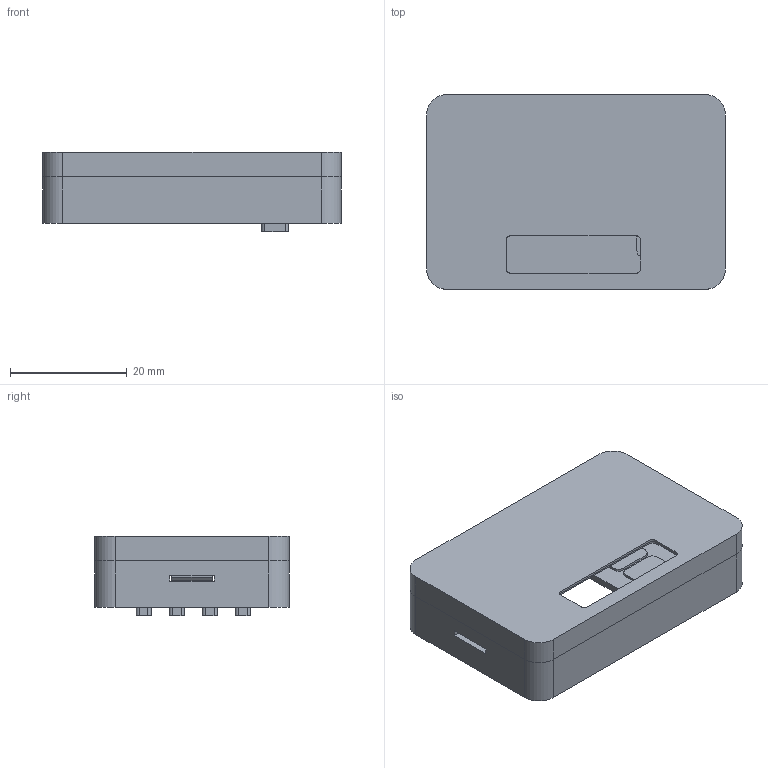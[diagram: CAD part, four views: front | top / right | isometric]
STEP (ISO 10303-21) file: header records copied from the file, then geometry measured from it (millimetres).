
FILE_DESCRIPTION(('Open CASCADE Model'),'2;1');
FILE_NAME('Open CASCADE Shape Model','2026-10-14T11:40:13',('Author'),( 'Open CASCADE'),'Open CASCADE STEP processor 7.9','Open CASCADE 7.9' ,'Unknown');
FILE_SCHEMA(('AUTOMOTIVE_DESIGN { 1 0 10303 214 1 1 1 1 }'));
Length unit declared in the file: millimetre
Products named in the file (7): OLED_case_CAD_v3; front; back_lower_open; key_1; key_2; key_3; key_4
Assembly tree (6 placements, depth 2):
  OLED_case_CAD_v3
    front
    back_lower_open
    key_1
    key_2
    key_3
    key_4
Bounding box: 51.3 x 33.4 x 13.61 mm (x, y, z)
Volume: 6432.7 mm3; surface area: 11108.7 mm2
Topology: 6 solids, 6 shells, 273 faces, 702 edges, 468 vertices
Faces by surface type: plane 165, cylinder 108
Full cylindrical faces by diameter (mm): 1.55 x4, 2.5 x4, 4 x4, 5 x4
Entity records: 17585 total; most frequent: CARTESIAN_POINT 3404, DIRECTION 2602, LINE 1448, VECTOR 1448, ORIENTED_EDGE 1404, PCURVE 1404, DEFINITIONAL_REPRESENTATION 1404, EDGE_CURVE 702
